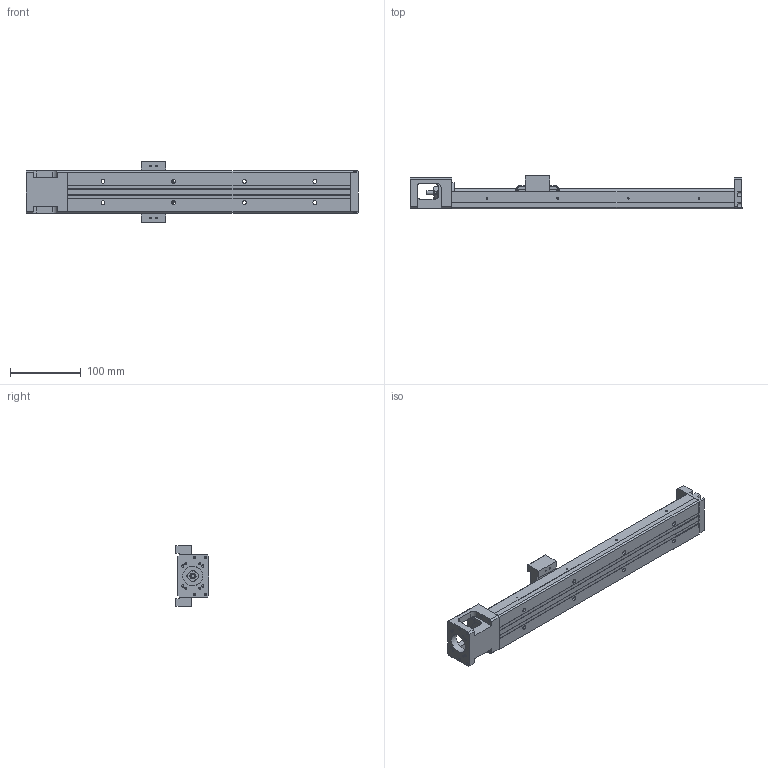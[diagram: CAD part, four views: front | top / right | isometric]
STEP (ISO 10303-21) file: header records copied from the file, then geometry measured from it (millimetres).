
FILE_DESCRIPTION(/* description */ (''),/* implementation_level */ '2;1');
FILE_NAME(/* name */ '33S-400.stp',/* time_stamp */ '2016-12-20T13:37:26+08:00',/* author */ (''),/* organization */ (''),/* preprocessor_version */ 'ST-DEVELOPER v11',/* originating_system */ 'SIEMENS UGS NX 6.0',/* authorisation */ '');
FILE_SCHEMA (('AUTOMOTIVE_DESIGN { 1 0 10303 214 1 1 1 1 }'));
Length unit declared in the file: millimetre
Products named in the file (1): model4
Bounding box: 470 x 47.95 x 86 mm (x, y, z)
Volume: 552124.3 mm3; surface area: 156903.5 mm2
Topology: 6 solids, 15 shells, 682 faces, 1723 edges, 1136 vertices
Faces by surface type: plane 405, cylinder 192, bspline 31, cone 22, extrusion 21, torus 9, revolution 2
Full cylindrical faces by diameter (mm): 1.6 x3, 1.65 x4, 2.15 x8, 2.42 x4, 2.45 x4, 2.5 x16, 3.2 x4, 3.3 x4, 3.4 x4, 3.5 x10, 3.969 x1, 4 x4, 4.001 x1, 4.135 x2, 4.2 x2, 5.5 x8, 6 x5, 7.6 x1, 8 x5, 9.5 x8, 10.72 x3, 11.8 x2, 12 x6, 12.8 x1, 13 x2, 14 x1, 17.38 x3, 21.5 x1, 22 x2, 28 x1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
Entity records: 35492 total; most frequent: CARTESIAN_POINT 16380, DIRECTION 3082, ORIENTED_EDGE 2990, EDGE_CURVE 1495, AXIS2_PLACEMENT_3D 1085, VERTEX_POINT 1061, EDGE_LOOP 962, VECTOR 910
